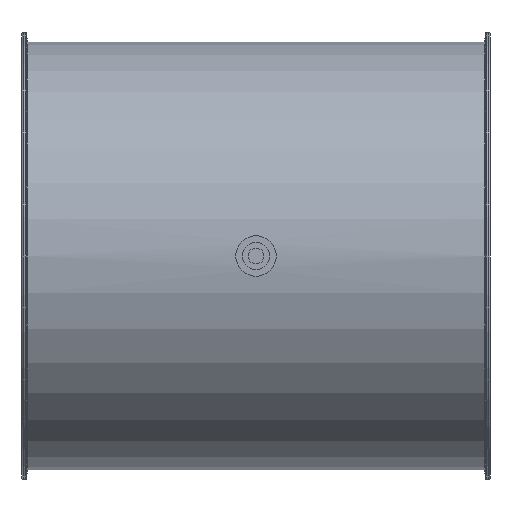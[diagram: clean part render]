
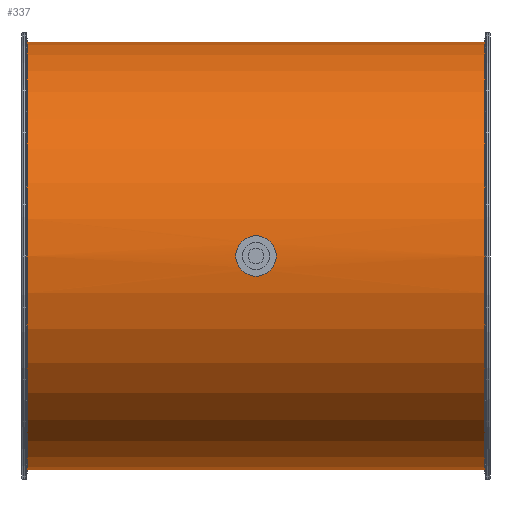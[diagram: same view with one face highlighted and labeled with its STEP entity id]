
A CAD part, front view. The second image highlights one B-rep face of the part: STEP entity #337.
In plain terms, the highlighted cylindrical face has radius 201 mm (diameter 402 mm), a full revolution.
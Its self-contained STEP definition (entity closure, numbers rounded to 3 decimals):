
#103=B_SPLINE_CURVE_WITH_KNOTS('',3,(#2030,#2031,#2032,#2033,#2034,#2035,
#2036,#2037,#2038,#2039,#2040,#2041,#2042,#2043,#2044,#2045,#2046,#2047),
 .UNSPECIFIED.,.T.,.F.,(2,2,2,2,2,2,2,2,2,2,2),(-0.125,0.,0.125,
0.25,0.375,0.5,0.625,
0.75,0.875,1.,1.125),.UNSPECIFIED.);
#104=B_SPLINE_CURVE_WITH_KNOTS('',3,(#2049,#2050,#2051,#2052,#2053,#2054,
#2055,#2056,#2057,#2058,#2059,#2060,#2061,#2062,#2063,#2064,#2065,#2066),
 .UNSPECIFIED.,.T.,.F.,(2,2,2,2,2,2,2,2,2,2,2),(-0.125,0.,0.125,
0.25,0.375,0.5,0.625,0.75,0.875,
1.,1.125),.UNSPECIFIED.);
#265=CYLINDRICAL_SURFACE('',#1378,201.);
#337=ADVANCED_FACE('',(#499,#500,#501,#502),#265,.T.);
#499=FACE_BOUND('',#665,.T.);
#500=FACE_BOUND('',#666,.T.);
#501=FACE_BOUND('',#667,.T.);
#502=FACE_BOUND('',#668,.T.);
#665=EDGE_LOOP('',(#907));
#666=EDGE_LOOP('',(#908));
#667=EDGE_LOOP('',(#909));
#668=EDGE_LOOP('',(#910));
#907=ORIENTED_EDGE('',*,*,#1159,.T.);
#908=ORIENTED_EDGE('',*,*,#1160,.F.);
#909=ORIENTED_EDGE('',*,*,#1161,.F.);
#910=ORIENTED_EDGE('',*,*,#1162,.T.);
#1038=VERTEX_POINT('',#2029);
#1039=VERTEX_POINT('',#2048);
#1040=VERTEX_POINT('',#2067);
#1041=VERTEX_POINT('',#2069);
#1159=EDGE_CURVE('',#1038,#1038,#1238,.T.);
#1160=EDGE_CURVE('',#1039,#1039,#103,.T.);
#1161=EDGE_CURVE('',#1040,#1040,#104,.T.);
#1162=EDGE_CURVE('',#1041,#1041,#1239,.T.);
#1238=CIRCLE('',#1376,201.);
#1239=CIRCLE('',#1377,201.);
#1376=AXIS2_PLACEMENT_3D('',#2028,#1697,#1698);
#1377=AXIS2_PLACEMENT_3D('',#2068,#1699,#1700);
#1378=AXIS2_PLACEMENT_3D('',#2070,#1701,#1702);
#1697=DIRECTION('',(-1.,0.,0.));
#1698=DIRECTION('',(0.,0.,-1.));
#1699=DIRECTION('',(1.,0.,0.));
#1700=DIRECTION('',(0.,0.,1.));
#1701=DIRECTION('',(1.,0.,0.));
#1702=DIRECTION('',(0.,0.,-1.));
#2028=CARTESIAN_POINT('',(214.83,-109.,125.));
#2029=CARTESIAN_POINT('',(214.83,-109.,-76.));
#2030=CARTESIAN_POINT('',(3.436,91.579,112.));
#2031=CARTESIAN_POINT('',(-3.436,91.579,112.));
#2032=CARTESIAN_POINT('',(-6.796,91.68,113.41));
#2033=CARTESIAN_POINT('',(-11.591,91.9,118.207));
#2034=CARTESIAN_POINT('',(-12.998,92.,121.601));
#2035=CARTESIAN_POINT('',(-13.002,92.,128.385));
#2036=CARTESIAN_POINT('',(-11.623,91.901,131.76));
#2037=CARTESIAN_POINT('',(-6.771,91.679,136.616));
#2038=CARTESIAN_POINT('',(-3.399,91.579,137.999));
#2039=CARTESIAN_POINT('',(3.389,91.579,138.001));
#2040=CARTESIAN_POINT('',(6.784,91.68,136.596));
#2041=CARTESIAN_POINT('',(11.583,91.899,131.807));
#2042=CARTESIAN_POINT('',(12.997,92.,128.444));
#2043=CARTESIAN_POINT('',(13.003,92.,121.581));
#2044=CARTESIAN_POINT('',(11.597,91.9,118.216));
#2045=CARTESIAN_POINT('',(6.802,91.68,113.414));
#2046=CARTESIAN_POINT('',(3.436,91.579,112.));
#2047=CARTESIAN_POINT('',(-3.436,91.579,112.));
#2048=CARTESIAN_POINT('',(0.,91.579,112.));
#2049=CARTESIAN_POINT('',(-3.436,-309.579,112.));
#2050=CARTESIAN_POINT('',(3.436,-309.579,112.));
#2051=CARTESIAN_POINT('',(6.796,-309.68,113.41));
#2052=CARTESIAN_POINT('',(11.591,-309.9,118.207));
#2053=CARTESIAN_POINT('',(12.998,-310.,121.601));
#2054=CARTESIAN_POINT('',(13.002,-310.,128.385));
#2055=CARTESIAN_POINT('',(11.623,-309.901,131.76));
#2056=CARTESIAN_POINT('',(6.771,-309.679,136.616));
#2057=CARTESIAN_POINT('',(3.399,-309.579,137.999));
#2058=CARTESIAN_POINT('',(-3.389,-309.579,138.001));
#2059=CARTESIAN_POINT('',(-6.784,-309.68,136.596));
#2060=CARTESIAN_POINT('',(-11.583,-309.899,131.807));
#2061=CARTESIAN_POINT('',(-12.997,-310.,128.444));
#2062=CARTESIAN_POINT('',(-13.003,-310.,121.581));
#2063=CARTESIAN_POINT('',(-11.597,-309.9,118.216));
#2064=CARTESIAN_POINT('',(-6.802,-309.68,113.414));
#2065=CARTESIAN_POINT('',(-3.436,-309.579,112.));
#2066=CARTESIAN_POINT('',(3.436,-309.579,112.));
#2067=CARTESIAN_POINT('',(0.,-309.579,112.));
#2068=CARTESIAN_POINT('',(-214.83,-109.,125.));
#2069=CARTESIAN_POINT('',(-214.83,-109.,326.));
#2070=CARTESIAN_POINT('',(-220.,-109.,125.));
